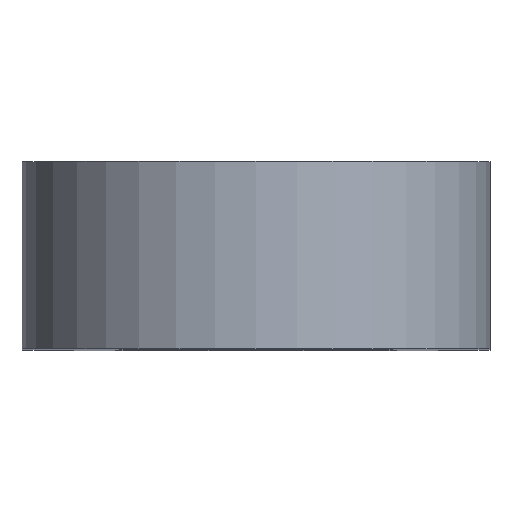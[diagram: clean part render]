
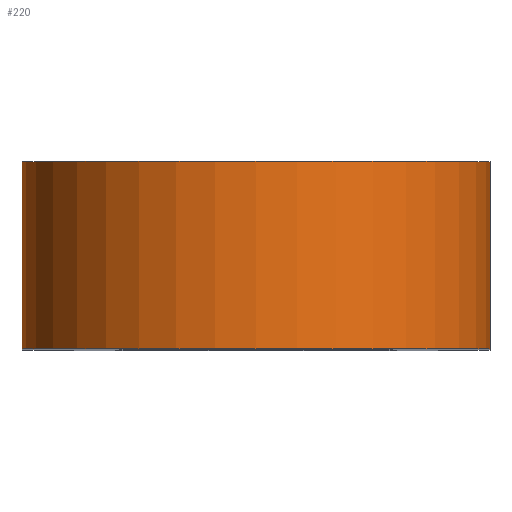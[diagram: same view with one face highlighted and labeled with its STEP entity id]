
A CAD part, top view. The second image highlights one B-rep face of the part: STEP entity #220.
In plain terms, the highlighted cylindrical face has radius 5 mm (diameter 10 mm), a partial arc.
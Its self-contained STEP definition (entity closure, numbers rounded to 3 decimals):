
#40=FACE_OUTER_BOUND('',#58,.T.);
#58=EDGE_LOOP('',(#191,#192,#193,#194));
#70=LINE('',#376,#83);
#75=LINE('',#387,#88);
#83=VECTOR('',#314,10.);
#88=VECTOR('',#325,10.);
#93=CIRCLE('',#243,5.);
#102=CIRCLE('',#261,5.);
#108=VERTEX_POINT('',#347);
#109=VERTEX_POINT('',#349);
#117=VERTEX_POINT('',#375);
#120=VERTEX_POINT('',#385);
#128=EDGE_CURVE('',#108,#109,#93,.T.);
#140=EDGE_CURVE('',#117,#109,#70,.T.);
#146=EDGE_CURVE('',#108,#120,#75,.T.);
#147=EDGE_CURVE('',#117,#120,#102,.T.);
#191=ORIENTED_EDGE('',*,*,#146,.T.);
#192=ORIENTED_EDGE('',*,*,#147,.F.);
#193=ORIENTED_EDGE('',*,*,#140,.T.);
#194=ORIENTED_EDGE('',*,*,#128,.F.);
#208=CYLINDRICAL_SURFACE('',#260,5.);
#220=ADVANCED_FACE('',(#40),#208,.T.);
#243=AXIS2_PLACEMENT_3D('',#350,#282,#283);
#260=AXIS2_PLACEMENT_3D('',#388,#326,#327);
#261=AXIS2_PLACEMENT_3D('',#389,#328,#329);
#282=DIRECTION('center_axis',(0.,-1.,0.));
#283=DIRECTION('ref_axis',(1.,0.,0.));
#314=DIRECTION('',(0.,-1.,0.));
#325=DIRECTION('',(0.,1.,0.));
#326=DIRECTION('center_axis',(0.,1.,0.));
#327=DIRECTION('ref_axis',(-1.,0.,0.));
#328=DIRECTION('center_axis',(0.,1.,0.));
#329=DIRECTION('ref_axis',(-1.,0.,0.));
#347=CARTESIAN_POINT('',(-15.901,5.857,159.35));
#349=CARTESIAN_POINT('',(-25.901,5.857,159.35));
#350=CARTESIAN_POINT('Origin',(-20.901,5.857,159.35));
#375=CARTESIAN_POINT('',(-25.901,9.857,159.35));
#376=CARTESIAN_POINT('',(-25.901,8.857,159.35));
#385=CARTESIAN_POINT('',(-15.901,9.857,159.35));
#387=CARTESIAN_POINT('',(-15.901,8.857,159.35));
#388=CARTESIAN_POINT('Origin',(-20.901,8.857,159.35));
#389=CARTESIAN_POINT('Origin',(-20.901,9.857,159.35));
